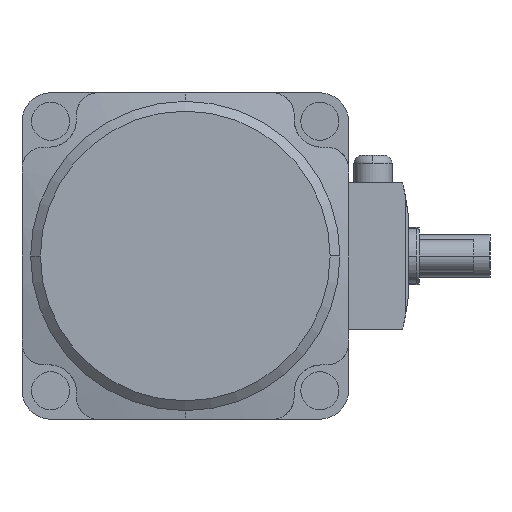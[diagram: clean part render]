
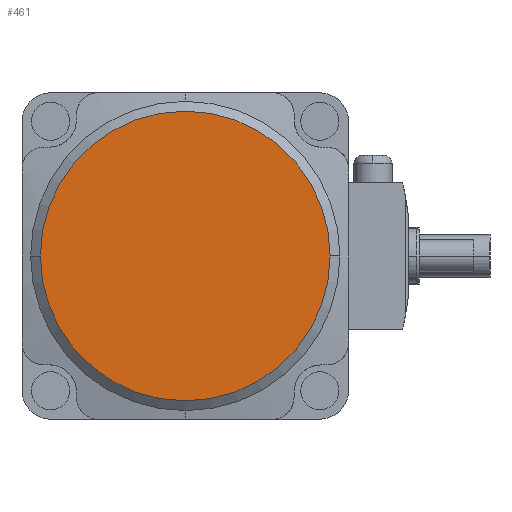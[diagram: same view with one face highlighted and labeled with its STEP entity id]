
A CAD part, left-side view. The second image highlights one B-rep face of the part: STEP entity #461.
In plain terms, the highlighted planar face has unit normal (-1, 0, 0).
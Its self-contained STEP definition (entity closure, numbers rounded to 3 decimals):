
#461 = ADVANCED_FACE( '', ( #1171 ), #1172, .T. );
#1171 = FACE_OUTER_BOUND( '', #1895, .T. );
#1172 = PLANE( '', #1896 );
#1895 = EDGE_LOOP( '', ( #4746, #4747 ) );
#1896 = AXIS2_PLACEMENT_3D( '', #4748, #4749, #4750 );
#4746 = ORIENTED_EDGE( '', *, *, #4978, .T. );
#4747 = ORIENTED_EDGE( '', *, *, #5799, .T. );
#4748 = CARTESIAN_POINT( '', ( -145., 3.308, 0. ) );
#4749 = DIRECTION( '', ( -1., 0., 0. ) );
#4750 = DIRECTION( '', ( 0., 1., 0. ) );
#4978 = EDGE_CURVE( '', #6000, #6003, #6005, .T. );
#5799 = EDGE_CURVE( '', #6003, #6000, #7372, .T. );
#6000 = VERTEX_POINT( '', #7763 );
#6003 = VERTEX_POINT( '', #7767 );
#6005 = CIRCLE( '', #7770, 26.616 );
#7372 = CIRCLE( '', #9944, 26.616 );
#7763 = CARTESIAN_POINT( '', ( -145., 16.616, 0. ) );
#7767 = CARTESIAN_POINT( '', ( -145., -36.616, 0. ) );
#7770 = AXIS2_PLACEMENT_3D( '', #10174, #10175, #10176 );
#9944 = AXIS2_PLACEMENT_3D( '', #11521, #11522, #11523 );
#10174 = CARTESIAN_POINT( '', ( -145., -10., 0. ) );
#10175 = DIRECTION( '', ( -1., 0., 0. ) );
#10176 = DIRECTION( '', ( 0., 1., 0. ) );
#11521 = CARTESIAN_POINT( '', ( -145., -10., 0. ) );
#11522 = DIRECTION( '', ( -1., 0., 0. ) );
#11523 = DIRECTION( '', ( 0., 1., 0. ) );
